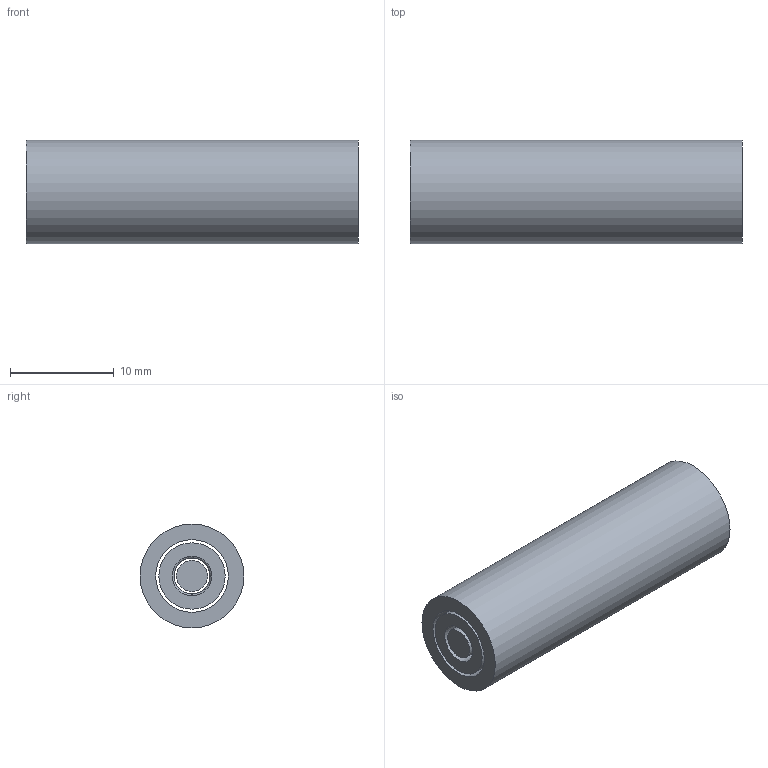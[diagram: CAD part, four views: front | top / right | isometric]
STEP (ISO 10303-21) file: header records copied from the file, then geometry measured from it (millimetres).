
FILE_DESCRIPTION(('Open CASCADE Model'),'2;1');
FILE_NAME('Open CASCADE Shape Model','2026-11-25T12:38:14',('Author'),( 'Open CASCADE'),'Open CASCADE STEP processor 8.0','Open CASCADE 8.0' ,'Unknown');
FILE_SCHEMA(('AP242_MANAGED_MODEL_BASED_3D_ENGINEERING_MIM_LF {1 0 10303 442 1 1 4 }' ));
Length unit declared in the file: millimetre
Products named in the file (4): Guide tube; Cam ring; Plunger; Century Spring B18-127CS
Bounding box: 32 x 10 x 10 mm (x, y, z)
Volume: 1623.5 mm3; surface area: 2421.2 mm2
Topology: 4 solids, 4 shells, 14 faces, 18 edges, 12 vertices
Faces by surface type: plane 8, cylinder 5, bspline 1
Full cylindrical faces by diameter (mm): 3 x1, 3.8 x1, 6.4 x1, 7 x1, 10 x1
Entity records: 1155 total; most frequent: CARTESIAN_POINT 656, DIRECTION 86, ORIENTED_EDGE 36, PCURVE 36, DEFINITIONAL_REPRESENTATION 36, LINE 28, VECTOR 28, AXIS2_PLACEMENT_3D 24
